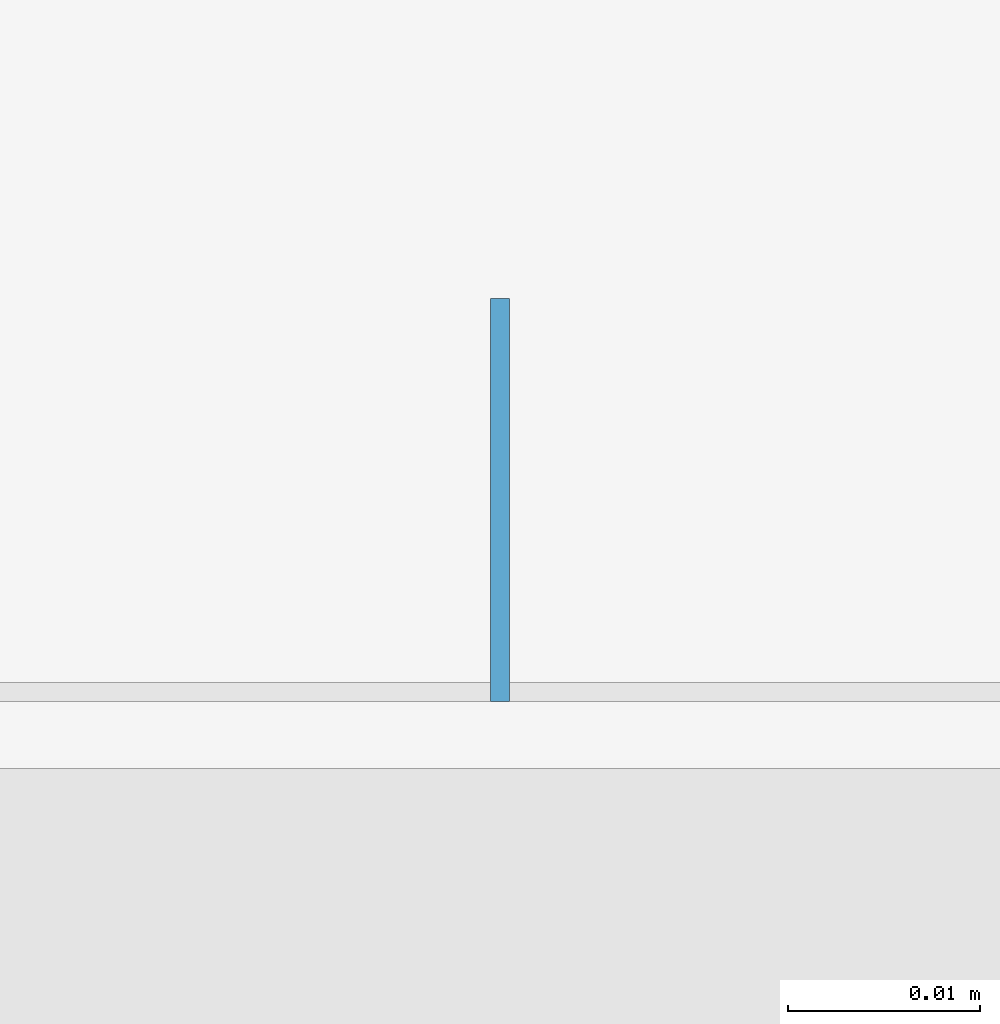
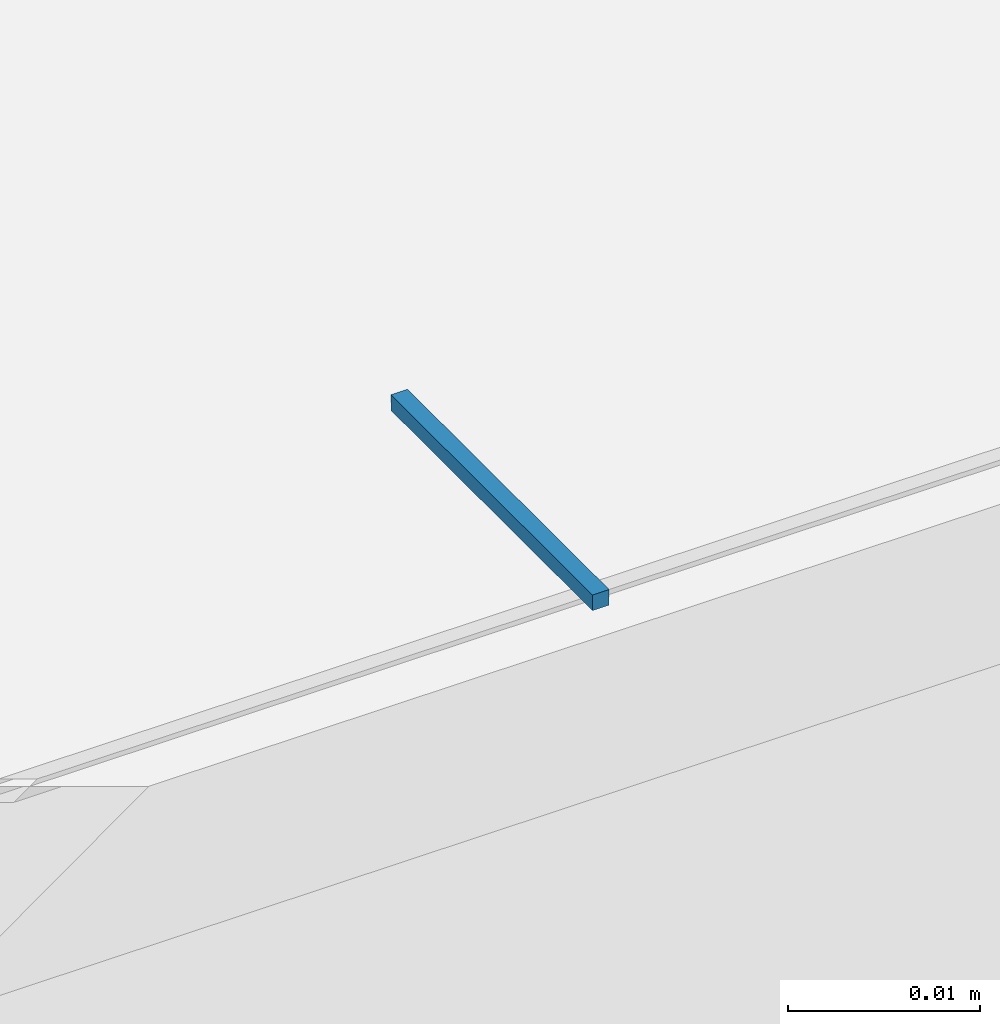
# One storey, part 43 of 230: 1 beam.
"""IFC4X3_ADD2 building model written with IfcOpenShell, lengths in millimetres."""

from ifc_helpers import new_model, si_unit, direction, frame, frame_2d, origin_with_axes, place, context, subcontext, project, spatial, rectangle, extrude, material, element, save


model = new_model("IFC4X3_ADD2")

# Units and contexts
model_context = context("Model", 3, precision=1e-05, world=origin_with_axes(), true_north=direction((0.0, 1.0)))
body_context = subcontext(model_context, "Body", "Model", "MODEL_VIEW")
ifc_project = project(units=[si_unit("LENGTHUNIT", "METRE", prefix="MILLI"), si_unit("AREAUNIT", "SQUARE_METRE"), si_unit("VOLUMEUNIT", "CUBIC_METRE"), si_unit("PLANEANGLEUNIT", "RADIAN"), si_unit("TIMEUNIT", "SECOND"), si_unit("MASSUNIT", "GRAM")], contexts=[model_context])

# Site, building, storey
site_placement = place(None, origin_with_axes())
site = spatial("IfcSite", under=ifc_project, at=site_placement, Name="Site", CompositionType="ELEMENT")
building_placement = place(site_placement, origin_with_axes())
building = spatial("IfcBuilding", under=site, at=building_placement, Name="IFC Building Story")
storey_placement = place(building_placement, origin_with_axes())
storey = spatial("IfcBuildingStorey", under=building, at=storey_placement, Name="ETAGE 00 (0)", Elevation=0.0)

# Beam
ifc_material = material(Name="STEEL/Accessory_invisible")
beam_placement = place(storey_placement, frame((48310.1856471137, -12574.499771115, 3779.5), z_axis=(1.0, 0.0, 0.0), x_axis=(0.0, 0.0, -1.0)))
element("IfcBeam", 1, at=beam_placement, inside=storey, material=ifc_material, Name="ZW1", ObjectType="1*1 4", context=body_context, shape_type="SweptSolid", body=[
    extrude(rectangle(XDim=0.9999999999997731, YDim=20.9999999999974, at=frame_2d((0.0, 5.95523630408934e-12), x_axis=(1.0, 0.0))), origin_with_axes(), (0.0, 0.0, 1.0), 1.0),
])

save(model, "model.ifc")
